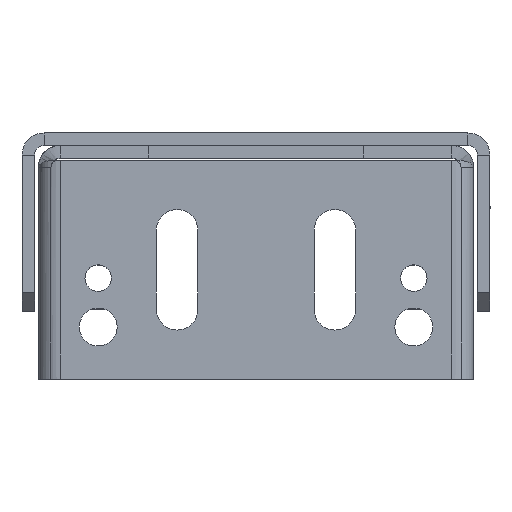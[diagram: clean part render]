
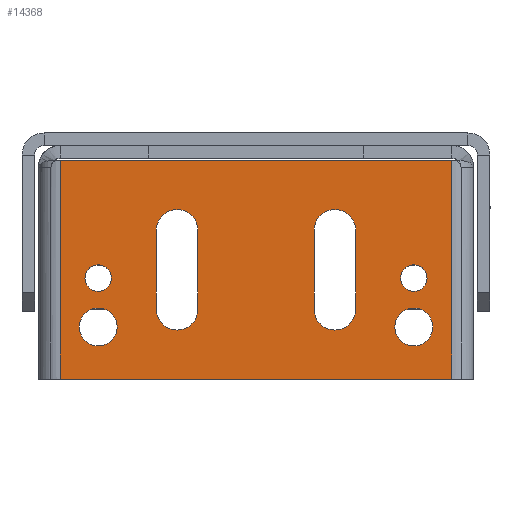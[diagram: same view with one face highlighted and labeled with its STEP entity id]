
A CAD part, left-side view. The second image highlights one B-rep face of the part: STEP entity #14368.
In plain terms, the highlighted planar face has unit normal (-1, 0, 0) as drawn and (0, 0, 1) by its records, which use the part's own axes.
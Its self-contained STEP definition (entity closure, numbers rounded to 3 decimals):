
#14368=ADVANCED_FACE('',(#27566,#27568,#27570,#27572,#27574,#27576,#27578),#27580,
.F.);
#27566=FACE_BOUND('',#27567,.T.);
#27567=EDGE_LOOP('',(#37109,#37110,#37111,#37112));
#27568=FACE_BOUND('',#27569,.T.);
#27569=EDGE_LOOP('',(#37113,#37114,#37115,#37116));
#27570=FACE_BOUND('',#27571,.T.);
#27571=EDGE_LOOP('',(#37117,#37118,#37119,#37120));
#27572=FACE_BOUND('',#27573,.T.);
#27573=EDGE_LOOP('',(#37121));
#27574=FACE_BOUND('',#27575,.T.);
#27575=EDGE_LOOP('',(#37122));
#27576=FACE_BOUND('',#27577,.T.);
#27577=EDGE_LOOP('',(#37123));
#27578=FACE_BOUND('',#27579,.T.);
#27579=EDGE_LOOP('',(#37124));
#27580=PLANE('',#27581);
#27581=AXIS2_PLACEMENT_3D('',#27582,#27583,#27584);
#27582=CARTESIAN_POINT('',(18.5,34.5,0.));
#27583=DIRECTION('',(0.,0.,-1.));
#27584=DIRECTION('',(-1.,0.,0.));
#37109=ORIENTED_EDGE('',*,*,#41801,.F.);
#37110=ORIENTED_EDGE('',*,*,#41802,.T.);
#37111=ORIENTED_EDGE('',*,*,#41803,.T.);
#37112=ORIENTED_EDGE('',*,*,#41804,.F.);
#37113=ORIENTED_EDGE('',*,*,#41805,.F.);
#37114=ORIENTED_EDGE('',*,*,#41806,.F.);
#37115=ORIENTED_EDGE('',*,*,#41807,.F.);
#37116=ORIENTED_EDGE('',*,*,#41706,.F.);
#37117=ORIENTED_EDGE('',*,*,#41808,.F.);
#37118=ORIENTED_EDGE('',*,*,#41809,.F.);
#37119=ORIENTED_EDGE('',*,*,#41810,.F.);
#37120=ORIENTED_EDGE('',*,*,#41710,.F.);
#37121=ORIENTED_EDGE('',*,*,#41745,.F.);
#37122=ORIENTED_EDGE('',*,*,#41747,.F.);
#37123=ORIENTED_EDGE('',*,*,#41749,.F.);
#37124=ORIENTED_EDGE('',*,*,#41751,.F.);
#41706=EDGE_CURVE('',#49354,#49356,#49357,.T.);
#41710=EDGE_CURVE('',#49362,#49364,#49365,.T.);
#41745=EDGE_CURVE('',#49429,#49429,#49430,.T.);
#41747=EDGE_CURVE('',#49433,#49433,#49434,.T.);
#41749=EDGE_CURVE('',#49437,#49437,#49438,.T.);
#41751=EDGE_CURVE('',#49441,#49441,#49442,.T.);
#41801=EDGE_CURVE('',#49531,#49532,#49533,.T.);
#41802=EDGE_CURVE('',#49531,#49534,#49535,.T.);
#41803=EDGE_CURVE('',#49534,#49536,#49537,.T.);
#41804=EDGE_CURVE('',#49532,#49536,#49538,.T.);
#41805=EDGE_CURVE('',#49539,#49354,#49540,.T.);
#41806=EDGE_CURVE('',#49541,#49539,#49542,.T.);
#41807=EDGE_CURVE('',#49356,#49541,#49543,.T.);
#41808=EDGE_CURVE('',#49544,#49362,#49545,.T.);
#41809=EDGE_CURVE('',#49546,#49544,#49547,.T.);
#41810=EDGE_CURVE('',#49364,#49546,#49548,.T.);
#49354=VERTEX_POINT('',#67666);
#49356=VERTEX_POINT('',#67670);
#49357=CIRCLE('',#67671,3.3);
#49362=VERTEX_POINT('',#67684);
#49364=VERTEX_POINT('',#67688);
#49365=CIRCLE('',#67689,3.3);
#49429=VERTEX_POINT('',#67853);
#49430=CIRCLE('',#67854,2.1);
#49433=VERTEX_POINT('',#67863);
#49434=CIRCLE('',#67864,3.);
#49437=VERTEX_POINT('',#67873);
#49438=CIRCLE('',#67874,2.1);
#49441=VERTEX_POINT('',#67883);
#49442=CIRCLE('',#67884,3.);
#49531=VERTEX_POINT('',#68077);
#49532=VERTEX_POINT('',#68078);
#49533=LINE('',#68079,#68080);
#49534=VERTEX_POINT('',#68082);
#49535=LINE('',#68083,#68084);
#49536=VERTEX_POINT('',#68086);
#49537=LINE('',#68087,#68088);
#49538=LINE('',#68090,#68091);
#49539=VERTEX_POINT('',#68093);
#49540=LINE('',#68094,#68095);
#49541=VERTEX_POINT('',#68097);
#49542=CIRCLE('',#68098,3.3);
#49543=LINE('',#68102,#68103);
#49544=VERTEX_POINT('',#68105);
#49545=LINE('',#68106,#68107);
#49546=VERTEX_POINT('',#68109);
#49547=CIRCLE('',#68110,3.3);
#49548=LINE('',#68114,#68115);
#67666=CARTESIAN_POINT('',(5.073,-15.8,0.));
#67670=CARTESIAN_POINT('',(5.073,-9.2,0.));
#67671=AXIS2_PLACEMENT_3D('',#67672,#67673,#67674);
#67672=CARTESIAN_POINT('',(5.073,-12.5,0.));
#67673=DIRECTION('',(0.,0.,1.));
#67674=DIRECTION('',(0.,-1.,0.));
#67684=CARTESIAN_POINT('',(5.073,9.2,0.));
#67688=CARTESIAN_POINT('',(5.073,15.8,0.));
#67689=AXIS2_PLACEMENT_3D('',#67690,#67691,#67692);
#67690=CARTESIAN_POINT('',(5.073,12.5,0.));
#67691=DIRECTION('',(0.,0.,1.));
#67692=DIRECTION('',(0.,-1.,0.));
#67853=CARTESIAN_POINT('',(-0.4,-25.,0.));
#67854=AXIS2_PLACEMENT_3D('',#67855,#67856,#67857);
#67855=CARTESIAN_POINT('',(-2.5,-25.,0.));
#67856=DIRECTION('',(0.,0.,1.));
#67857=DIRECTION('',(-1.,0.,0.));
#67863=CARTESIAN_POINT('',(-7.25,-25.,0.));
#67864=AXIS2_PLACEMENT_3D('',#67865,#67866,#67867);
#67865=CARTESIAN_POINT('',(-10.25,-25.,0.));
#67866=DIRECTION('',(0.,0.,1.));
#67867=DIRECTION('',(-1.,0.,0.));
#67873=CARTESIAN_POINT('',(-0.4,25.,0.));
#67874=AXIS2_PLACEMENT_3D('',#67875,#67876,#67877);
#67875=CARTESIAN_POINT('',(-2.5,25.,0.));
#67876=DIRECTION('',(0.,0.,1.));
#67877=DIRECTION('',(-1.,0.,0.));
#67883=CARTESIAN_POINT('',(-7.25,25.,0.));
#67884=AXIS2_PLACEMENT_3D('',#67885,#67886,#67887);
#67885=CARTESIAN_POINT('',(-10.25,25.,0.));
#67886=DIRECTION('',(0.,0.,1.));
#67887=DIRECTION('',(-1.,0.,0.));
#68077=CARTESIAN_POINT('',(16.146,31.,0.));
#68078=CARTESIAN_POINT('',(16.146,-31.,0.));
#68079=CARTESIAN_POINT('',(16.146,31.,0.));
#68080=VECTOR('',#68081,1.);
#68081=DIRECTION('',(0.,-1.,0.));
#68082=CARTESIAN_POINT('',(-18.5,31.,0.));
#68083=CARTESIAN_POINT('',(16.146,31.,0.));
#68084=VECTOR('',#68085,1.);
#68085=DIRECTION('',(-1.,0.,0.));
#68086=CARTESIAN_POINT('',(-18.5,-31.,0.));
#68087=CARTESIAN_POINT('',(-18.5,31.,0.));
#68088=VECTOR('',#68089,1.);
#68089=DIRECTION('',(0.,-1.,0.));
#68090=CARTESIAN_POINT('',(16.146,-31.,0.));
#68091=VECTOR('',#68092,1.);
#68092=DIRECTION('',(-1.,0.,0.));
#68093=CARTESIAN_POINT('',(-7.427,-15.8,0.));
#68094=CARTESIAN_POINT('',(-7.427,-15.8,0.));
#68095=VECTOR('',#68096,1.);
#68096=DIRECTION('',(1.,0.,0.));
#68097=CARTESIAN_POINT('',(-7.427,-9.2,0.));
#68098=AXIS2_PLACEMENT_3D('',#68099,#68100,#68101);
#68099=CARTESIAN_POINT('',(-7.427,-12.5,0.));
#68100=DIRECTION('',(0.,0.,1.));
#68101=DIRECTION('',(0.,1.,0.));
#68102=CARTESIAN_POINT('',(5.073,-9.2,0.));
#68103=VECTOR('',#68104,1.);
#68104=DIRECTION('',(-1.,0.,0.));
#68105=CARTESIAN_POINT('',(-7.427,9.2,0.));
#68106=CARTESIAN_POINT('',(-7.427,9.2,0.));
#68107=VECTOR('',#68108,1.);
#68108=DIRECTION('',(1.,0.,0.));
#68109=CARTESIAN_POINT('',(-7.427,15.8,0.));
#68110=AXIS2_PLACEMENT_3D('',#68111,#68112,#68113);
#68111=CARTESIAN_POINT('',(-7.427,12.5,0.));
#68112=DIRECTION('',(0.,0.,1.));
#68113=DIRECTION('',(0.,1.,0.));
#68114=CARTESIAN_POINT('',(5.073,15.8,0.));
#68115=VECTOR('',#68116,1.);
#68116=DIRECTION('',(-1.,0.,0.));
